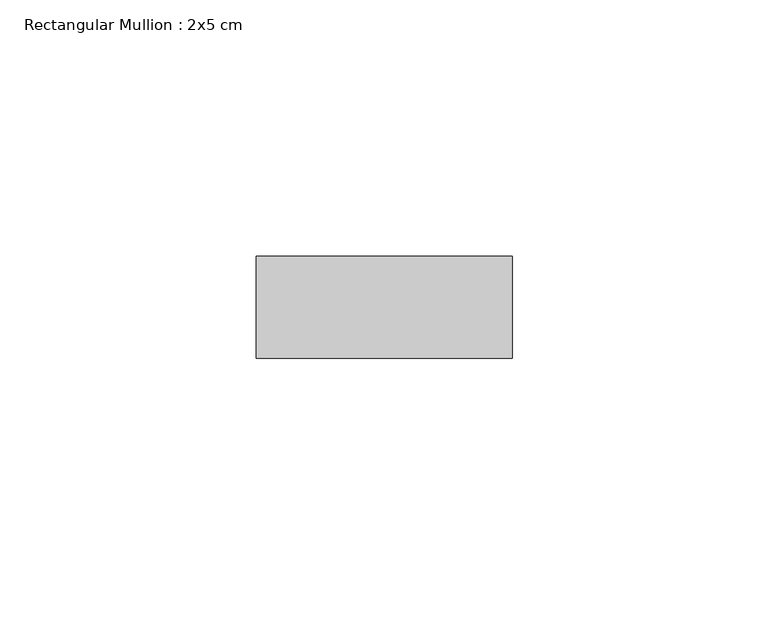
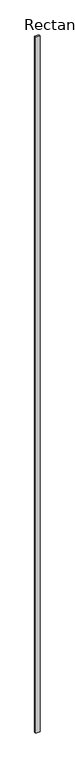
"""IFC4 building model written with IfcOpenShell, lengths in millimetres: member geometry, Rectangular Mullion : 2x5 cm."""

from ifc_helpers import new_model, si_unit, frame, origin, place, context, project, spatial, polyline, outline, extrude, source, transform, mapped, element, save


def rectangular_mullion_2x5_cm_5aa58a0c(model_context):
    return source(origin(), model_context, "Body", "SweptSolid", [
        extrude(outline(polyline([(50.0, 20.0), (50.0, 0.0), (0.0, 0.0), (0.0, 20.0), (50.0, 20.0)])), frame((0.0, 0.0, -8287.2294827), z_axis=(0.0, 0.0, 1.0), x_axis=(1.0, 0.0, 0.0)), (0.0, 0.0, 1.0), 8287.2294827),
    ])


if __name__ == "__main__":
    model = new_model("IFC4")
    model_context = context("Model", 3, world=origin())
    ifc_project = project(units=[si_unit("LENGTHUNIT", "METRE", prefix="MILLI")], contexts=[model_context])
    site = spatial("IfcSite", under=ifc_project)
    building = spatial("IfcBuilding", under=site)
    placement = place(None, origin())
    rectangular_mullion_2x5_cm_shape = rectangular_mullion_2x5_cm_5aa58a0c(model_context)
    element("IfcMember", 1, ObjectType="Rectangular Mullion : 2x5 cm", at=placement, inside=building, context=model_context, shape_type="MappedRepresentation", body=[
        mapped(rectangular_mullion_2x5_cm_shape, transform((0.0, 0.0, 0.0), x_axis=(1.0, 0.0, 0.0), y_axis=(0.0, 1.0, 0.0), z_axis=(0.0, 0.0, 1.0))),
    ])
    save(model, "model.ifc")
